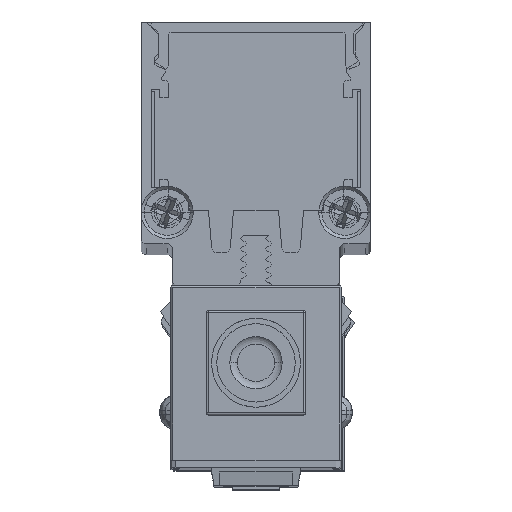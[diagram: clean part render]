
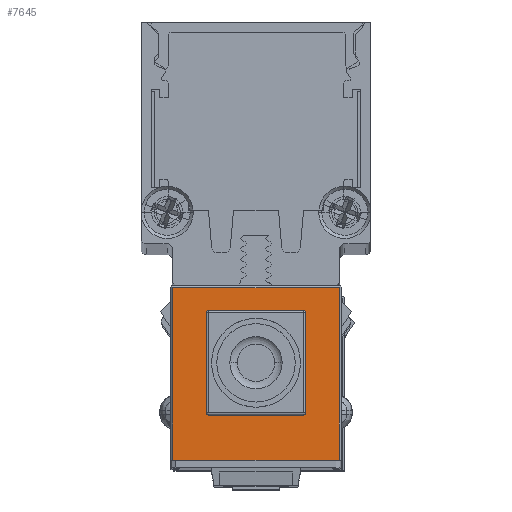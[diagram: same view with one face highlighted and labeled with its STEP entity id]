
A CAD part, top view. The second image highlights one B-rep face of the part: STEP entity #7645.
In plain terms, the highlighted planar face has unit normal (0, 0, 1) as drawn and (-1, 0, 0) by its records, which use the part's own axes.
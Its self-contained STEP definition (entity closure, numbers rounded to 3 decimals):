
#175 = EDGE_CURVE ( 'NONE', #45378, #35927, #9925, .T. ) ;
#434 = CARTESIAN_POINT ( 'NONE',  ( -6.5, 4.75, 12.2 ) ) ;
#576 = EDGE_CURVE ( 'NONE', #24665, #6063, #34473, .T. ) ;
#1688 = LINE ( 'NONE', #38913, #61836 ) ;
#2819 = CARTESIAN_POINT ( 'NONE',  ( -6.5, 4.75, 2.6 ) ) ;
#4293 = ORIENTED_EDGE ( 'NONE', *, *, #65852, .T. ) ;
#4327 = LINE ( 'NONE', #8866, #35326 ) ;
#5888 = EDGE_CURVE ( 'NONE', #51071, #45378, #9700, .T. ) ;
#6063 = VERTEX_POINT ( 'NONE', #31332 ) ;
#7645 = ADVANCED_FACE ( 'NONE', ( #69565, #54054 ), #11168, .F. ) ;
#7854 = CARTESIAN_POINT ( 'NONE',  ( -6.5, 4.55, 2.4 ) ) ;
#8866 = CARTESIAN_POINT ( 'NONE',  ( -6.5, 4.75, 2.4 ) ) ;
#9305 = ORIENTED_EDGE ( 'NONE', *, *, #13119, .F. ) ;
#9392 = EDGE_CURVE ( 'NONE', #24665, #44594, #55594, .T. ) ;
#9404 = AXIS2_PLACEMENT_3D ( 'NONE', #46034, #51895, #16998 ) ;
#9700 = LINE ( 'NONE', #58517, #38876 ) ;
#9894 = CARTESIAN_POINT ( 'NONE',  ( -6.5, -4.75, 2.6 ) ) ;
#9925 = LINE ( 'NONE', #56085, #25450 ) ;
#11168 = PLANE ( 'NONE',  #9404 ) ;
#11439 = CARTESIAN_POINT ( 'NONE',  ( -6.5, 8.15, 16.7 ) ) ;
#11892 = EDGE_CURVE ( 'NONE', #60567, #6063, #40295, .T. ) ;
#12396 = EDGE_LOOP ( 'NONE', ( #65834, #15572, #4293, #62807 ) ) ;
#12632 = EDGE_LOOP ( 'NONE', ( #46821, #37218, #58524, #74430, #73522, #18868, #9305, #61414 ) ) ;
#13119 = EDGE_CURVE ( 'NONE', #52525, #16090, #68388, .T. ) ;
#13894 = DIRECTION ( 'NONE',  ( 1., 0., 0. ) ) ;
#14015 = DIRECTION ( 'NONE',  ( 1., 0., 0. ) ) ;
#15169 = DIRECTION ( 'NONE',  ( 1., 0., 0. ) ) ;
#15572 = ORIENTED_EDGE ( 'NONE', *, *, #175, .T. ) ;
#15838 = DIRECTION ( 'NONE',  ( 0., -1., 0. ) ) ;
#16090 = VERTEX_POINT ( 'NONE', #2819 ) ;
#16998 = DIRECTION ( 'NONE',  ( 0., 1., 0. ) ) ;
#17499 = DIRECTION ( 'NONE',  ( 0., 0., -1. ) ) ;
#18868 = ORIENTED_EDGE ( 'NONE', *, *, #71350, .T. ) ;
#21883 = VECTOR ( 'NONE', #17499, 1000. ) ;
#22739 = CIRCLE ( 'NONE', #35168, 0.2 ) ;
#24665 = VERTEX_POINT ( 'NONE', #9894 ) ;
#25450 = VECTOR ( 'NONE', #15838, 1000. ) ;
#28351 = LINE ( 'NONE', #11439, #40157 ) ;
#29563 = EDGE_CURVE ( 'NONE', #51071, #40557, #28351, .T. ) ;
#31332 = CARTESIAN_POINT ( 'NONE',  ( -6.5, -4.75, 12.2 ) ) ;
#32697 = DIRECTION ( 'NONE',  ( 1., 0., 0. ) ) ;
#32936 = AXIS2_PLACEMENT_3D ( 'NONE', #48789, #13894, #54633 ) ;
#34473 = LINE ( 'NONE', #42309, #63647 ) ;
#35098 = CARTESIAN_POINT ( 'NONE',  ( -6.5, 4.75, 2.4 ) ) ;
#35168 = AXIS2_PLACEMENT_3D ( 'NONE', #50057, #15169, #55921 ) ;
#35326 = VECTOR ( 'NONE', #66993, 1000. ) ;
#35619 = CARTESIAN_POINT ( 'NONE',  ( -6.5, -7.95, 16.7 ) ) ;
#35927 = VERTEX_POINT ( 'NONE', #73294 ) ;
#37218 = ORIENTED_EDGE ( 'NONE', *, *, #11892, .T. ) ;
#38236 = VERTEX_POINT ( 'NONE', #51251 ) ;
#38876 = VECTOR ( 'NONE', #52924, 1000. ) ;
#38913 = CARTESIAN_POINT ( 'NONE',  ( -6.5, 4.75, 12.4 ) ) ;
#39103 = EDGE_CURVE ( 'NONE', #52525, #38236, #22739, .T. ) ;
#40157 = VECTOR ( 'NONE', #52420, 1000. ) ;
#40295 = CIRCLE ( 'NONE', #47641, 0.2 ) ;
#40307 = EDGE_CURVE ( 'NONE', #63088, #44594, #4327, .T. ) ;
#40557 = VERTEX_POINT ( 'NONE', #35619 ) ;
#42309 = CARTESIAN_POINT ( 'NONE',  ( -6.5, -4.75, 2.4 ) ) ;
#44594 = VERTEX_POINT ( 'NONE', #61813 ) ;
#45095 = LINE ( 'NONE', #66611, #58728 ) ;
#45378 = VERTEX_POINT ( 'NONE', #58875 ) ;
#46034 = CARTESIAN_POINT ( 'NONE',  ( -6.5, 8.15, 16.7 ) ) ;
#46821 = ORIENTED_EDGE ( 'NONE', *, *, #63826, .F. ) ;
#46904 = DIRECTION ( 'NONE',  ( 0., 0., 1. ) ) ;
#47641 = AXIS2_PLACEMENT_3D ( 'NONE', #67566, #32697, #73422 ) ;
#48789 = CARTESIAN_POINT ( 'NONE',  ( -6.5, 4.55, 2.6 ) ) ;
#48919 = CARTESIAN_POINT ( 'NONE',  ( -6.5, -4.55, 2.6 ) ) ;
#50057 = CARTESIAN_POINT ( 'NONE',  ( -6.5, 4.55, 12.2 ) ) ;
#50548 = CARTESIAN_POINT ( 'NONE',  ( -6.5, 7.95, 16.7 ) ) ;
#51053 = CIRCLE ( 'NONE', #32936, 0.2 ) ;
#51071 = VERTEX_POINT ( 'NONE', #50548 ) ;
#51251 = CARTESIAN_POINT ( 'NONE',  ( -6.5, 4.55, 12.4 ) ) ;
#51895 = DIRECTION ( 'NONE',  ( 1., 0., 0. ) ) ;
#52420 = DIRECTION ( 'NONE',  ( 0., -1., 0. ) ) ;
#52525 = VERTEX_POINT ( 'NONE', #434 ) ;
#52924 = DIRECTION ( 'NONE',  ( 0., 0., -1. ) ) ;
#53935 = CARTESIAN_POINT ( 'NONE',  ( -6.5, -4.55, 12.4 ) ) ;
#54054 = FACE_BOUND ( 'NONE', #12632, .T. ) ;
#54633 = DIRECTION ( 'NONE',  ( 0., 1., 0. ) ) ;
#54766 = DIRECTION ( 'NONE',  ( 0., 1., 0. ) ) ;
#55123 = DIRECTION ( 'NONE',  ( 0., 0., 1. ) ) ;
#55594 = CIRCLE ( 'NONE', #74903, 0.2 ) ;
#55921 = DIRECTION ( 'NONE',  ( 0., 1., 0. ) ) ;
#56085 = CARTESIAN_POINT ( 'NONE',  ( -6.5, 8.15, 0.2 ) ) ;
#56451 = DIRECTION ( 'NONE',  ( 0., 1., 0. ) ) ;
#58517 = CARTESIAN_POINT ( 'NONE',  ( -6.5, 7.95, 16.7 ) ) ;
#58524 = ORIENTED_EDGE ( 'NONE', *, *, #576, .F. ) ;
#58728 = VECTOR ( 'NONE', #55123, 1000. ) ;
#58875 = CARTESIAN_POINT ( 'NONE',  ( -6.5, 7.95, 0.2 ) ) ;
#60567 = VERTEX_POINT ( 'NONE', #53935 ) ;
#61414 = ORIENTED_EDGE ( 'NONE', *, *, #39103, .T. ) ;
#61813 = CARTESIAN_POINT ( 'NONE',  ( -6.5, -4.55, 2.4 ) ) ;
#61836 = VECTOR ( 'NONE', #56451, 1000. ) ;
#62807 = ORIENTED_EDGE ( 'NONE', *, *, #29563, .F. ) ;
#63088 = VERTEX_POINT ( 'NONE', #7854 ) ;
#63647 = VECTOR ( 'NONE', #46904, 1000. ) ;
#63826 = EDGE_CURVE ( 'NONE', #60567, #38236, #1688, .T. ) ;
#65834 = ORIENTED_EDGE ( 'NONE', *, *, #5888, .T. ) ;
#65852 = EDGE_CURVE ( 'NONE', #35927, #40557, #45095, .T. ) ;
#66611 = CARTESIAN_POINT ( 'NONE',  ( -6.5, -7.95, 16.7 ) ) ;
#66993 = DIRECTION ( 'NONE',  ( 0., -1., 0. ) ) ;
#67566 = CARTESIAN_POINT ( 'NONE',  ( -6.5, -4.55, 12.2 ) ) ;
#68388 = LINE ( 'NONE', #35098, #21883 ) ;
#69565 = FACE_OUTER_BOUND ( 'NONE', #12396, .T. ) ;
#71350 = EDGE_CURVE ( 'NONE', #63088, #16090, #51053, .T. ) ;
#73294 = CARTESIAN_POINT ( 'NONE',  ( -6.5, -7.95, 0.2 ) ) ;
#73422 = DIRECTION ( 'NONE',  ( 0., 1., 0. ) ) ;
#73522 = ORIENTED_EDGE ( 'NONE', *, *, #40307, .F. ) ;
#74430 = ORIENTED_EDGE ( 'NONE', *, *, #9392, .T. ) ;
#74903 = AXIS2_PLACEMENT_3D ( 'NONE', #48919, #14015, #54766 ) ;
